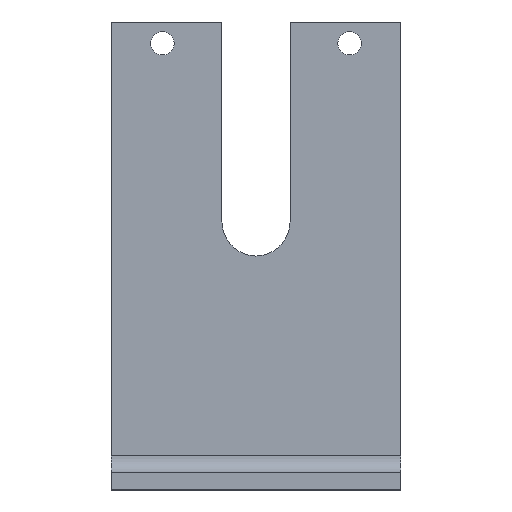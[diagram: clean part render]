
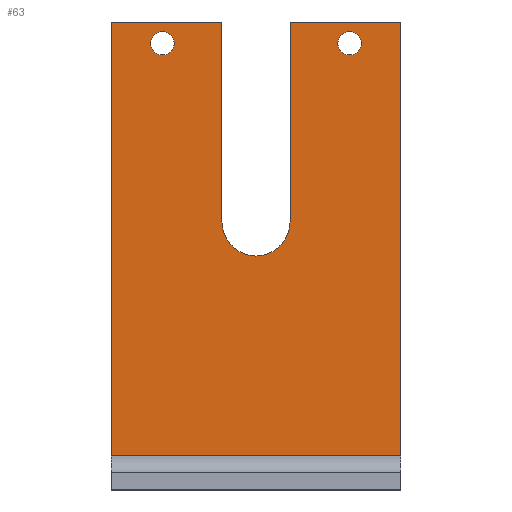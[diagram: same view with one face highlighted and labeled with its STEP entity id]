
A CAD part, top view. The second image highlights one B-rep face of the part: STEP entity #63.
In plain terms, the highlighted planar face has unit normal (0, 0, 1).
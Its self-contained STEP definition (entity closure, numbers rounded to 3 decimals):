
#63=ADVANCED_FACE('',(#159,#161,#163),#165,.T.);
#159=FACE_BOUND('',#160,.T.);
#160=EDGE_LOOP('',(#274));
#161=FACE_BOUND('',#162,.T.);
#162=EDGE_LOOP('',(#275));
#163=FACE_OUTER_BOUND('',#164,.T.);
#164=EDGE_LOOP('',(#276,#277,#278,#279,#280,#281,#282,#283));
#165=PLANE('',#166);
#166=AXIS2_PLACEMENT_3D('',#167,#168,#169);
#167=CARTESIAN_POINT('',(0.,8.,4.));
#168=DIRECTION('',(0.,-0.,1.));
#169=DIRECTION('',(0.,1.,0.));
#274=ORIENTED_EDGE('',*,*,#345,.T.);
#275=ORIENTED_EDGE('',*,*,#346,.T.);
#276=ORIENTED_EDGE('',*,*,#347,.T.);
#277=ORIENTED_EDGE('',*,*,#348,.T.);
#278=ORIENTED_EDGE('',*,*,#349,.T.);
#279=ORIENTED_EDGE('',*,*,#330,.F.);
#280=ORIENTED_EDGE('',*,*,#328,.F.);
#281=ORIENTED_EDGE('',*,*,#326,.T.);
#282=ORIENTED_EDGE('',*,*,#344,.T.);
#283=ORIENTED_EDGE('',*,*,#350,.T.);
#326=EDGE_CURVE('',#389,#387,#390,.T.);
#328=EDGE_CURVE('',#389,#392,#393,.T.);
#330=EDGE_CURVE('',#392,#395,#396,.T.);
#344=EDGE_CURVE('',#387,#417,#419,.T.);
#345=EDGE_CURVE('',#420,#420,#421,.T.);
#346=EDGE_CURVE('',#422,#422,#423,.T.);
#347=EDGE_CURVE('',#424,#425,#426,.T.);
#348=EDGE_CURVE('',#425,#427,#428,.F.);
#349=EDGE_CURVE('',#427,#395,#429,.T.);
#350=EDGE_CURVE('',#417,#424,#430,.F.);
#387=VERTEX_POINT('',#506);
#389=VERTEX_POINT('',#510);
#390=LINE('',#511,#512);
#392=VERTEX_POINT('',#518);
#393=LINE('',#519,#520);
#395=VERTEX_POINT('',#526);
#396=LINE('',#527,#528);
#417=VERTEX_POINT('',#578);
#419=LINE('',#582,#583);
#420=VERTEX_POINT('',#585);
#421=CIRCLE('',#586,2.75);
#422=VERTEX_POINT('',#590);
#423=CIRCLE('',#591,2.75);
#424=VERTEX_POINT('',#595);
#425=VERTEX_POINT('',#596);
#426=CIRCLE('',#597,8.);
#427=VERTEX_POINT('',#601);
#428=LINE('',#602,#603);
#429=LINE('',#605,#606);
#430=LINE('',#608,#609);
#506=CARTESIAN_POINT('',(0.,110.,4.));
#510=CARTESIAN_POINT('',(0.,8.,4.));
#511=CARTESIAN_POINT('',(0.,8.,4.));
#512=VECTOR('',#513,1.);
#513=DIRECTION('',(0.,1.,0.));
#518=CARTESIAN_POINT('',(-68.,8.,4.));
#519=CARTESIAN_POINT('',(0.,8.,4.));
#520=VECTOR('',#521,1.);
#521=DIRECTION('',(-1.,0.,0.));
#526=CARTESIAN_POINT('',(-68.,110.,4.));
#527=CARTESIAN_POINT('',(-68.,8.,4.));
#528=VECTOR('',#529,1.);
#529=DIRECTION('',(0.,1.,0.));
#578=CARTESIAN_POINT('',(-26.,110.,4.));
#582=CARTESIAN_POINT('',(0.,110.,4.));
#583=VECTOR('',#584,1.);
#584=DIRECTION('',(-1.,0.,0.));
#585=CARTESIAN_POINT('',(-14.75,105.,4.));
#586=AXIS2_PLACEMENT_3D('',#587,#588,#589);
#587=CARTESIAN_POINT('',(-12.,105.,4.));
#588=DIRECTION('',(0.,0.,-1.));
#589=DIRECTION('',(-1.,0.,0.));
#590=CARTESIAN_POINT('',(-58.75,105.,4.));
#591=AXIS2_PLACEMENT_3D('',#592,#593,#594);
#592=CARTESIAN_POINT('',(-56.,105.,4.));
#593=DIRECTION('',(0.,0.,-1.));
#594=DIRECTION('',(-1.,0.,0.));
#595=CARTESIAN_POINT('',(-26.,63.,4.));
#596=CARTESIAN_POINT('',(-42.,63.,4.));
#597=AXIS2_PLACEMENT_3D('',#598,#599,#600);
#598=CARTESIAN_POINT('',(-34.,63.,4.));
#599=DIRECTION('',(0.,-0.,-1.));
#600=DIRECTION('',(1.,0.,0.));
#601=CARTESIAN_POINT('',(-42.,110.,4.));
#602=CARTESIAN_POINT('',(-42.,110.,4.));
#603=VECTOR('',#604,1.);
#604=DIRECTION('',(0.,-1.,0.));
#605=CARTESIAN_POINT('',(-42.,110.,4.));
#606=VECTOR('',#607,1.);
#607=DIRECTION('',(-1.,0.,0.));
#608=CARTESIAN_POINT('',(-26.,63.,4.));
#609=VECTOR('',#610,1.);
#610=DIRECTION('',(0.,1.,0.));
